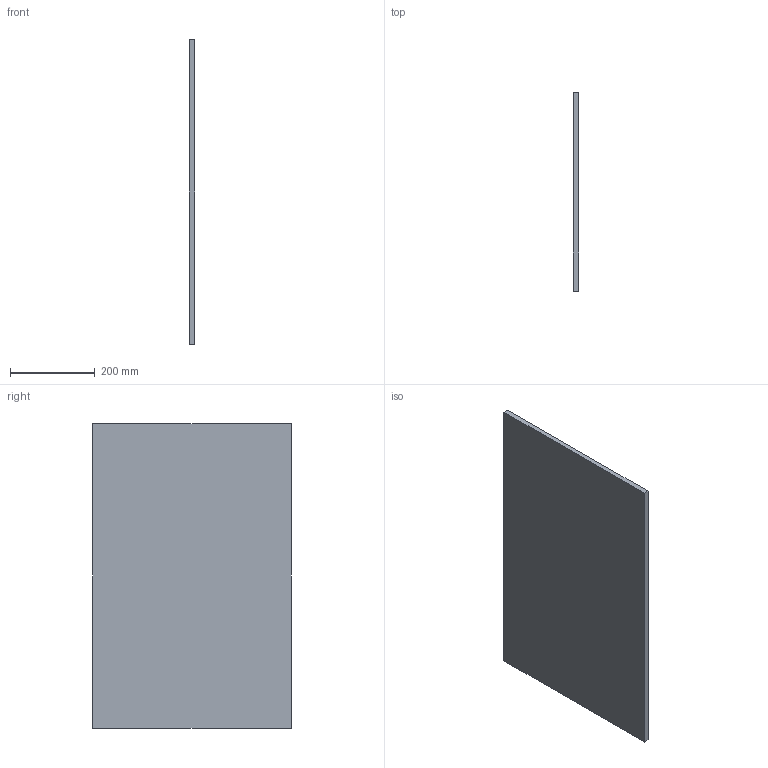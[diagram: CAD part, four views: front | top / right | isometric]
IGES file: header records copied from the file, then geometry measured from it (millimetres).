
Start section: Data from Parasolid IGES Translator 19.0.9, Copyright(c) 2006 Siemens PL M Software. All Rights Reserved.
Global section: file name: noorth-SI-H 72 D 47 W 1,2_9702.igs; native system: By Siemens PLM Incorporated; preprocessor: XPlus GENERIC/IGES 19.0.9; author: Noname; organization: Noname; date: 20200710.084432; units: metre
Bounding box: 12 x 470 x 720 mm (x, y, z)
Volume: 4060800 mm3; surface area: 705360 mm2
Topology: 1 solids, 1 shells, 6 faces, 12 edges, 8 vertices
Faces by surface type: plane 6
